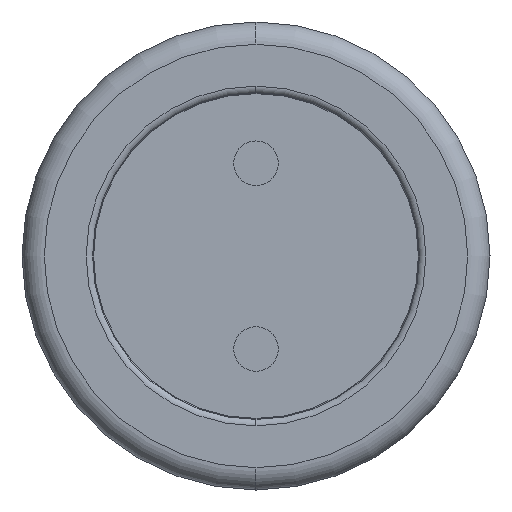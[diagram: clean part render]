
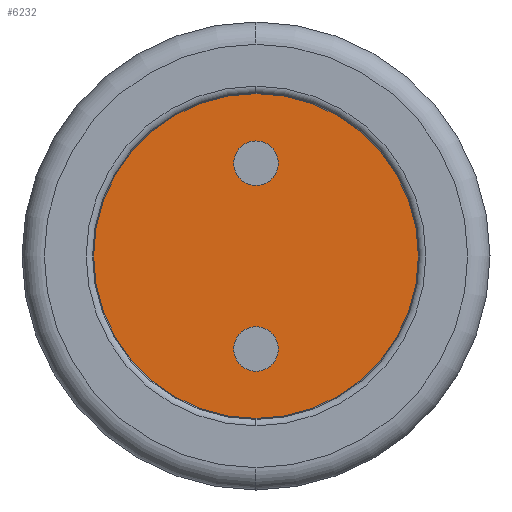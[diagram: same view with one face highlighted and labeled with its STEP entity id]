
A CAD part, left-side view. The second image highlights one B-rep face of the part: STEP entity #6232.
In plain terms, the highlighted planar face has unit normal (-1, 0, 0).
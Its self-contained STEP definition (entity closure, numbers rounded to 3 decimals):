
#40=CARTESIAN_POINT('',(-9.8,0.,0.002));
#41=DIRECTION('',(-1.,0.,0.));
#42=DIRECTION('',(0.,0.,-1.));
#43=AXIS2_PLACEMENT_3D('',#40,#41,#42);
#45=CARTESIAN_POINT('',(-9.8,0.,0.002));
#46=DIRECTION('',(1.,0.,0.));
#47=DIRECTION('',(0.,0.,-1.));
#48=AXIS2_PLACEMENT_3D('',#45,#46,#47);
#50=CARTESIAN_POINT('',(-9.8,0.,-1.25));
#51=DIRECTION('',(-1.,0.,0.));
#52=DIRECTION('',(0.,0.,-1.));
#53=AXIS2_PLACEMENT_3D('',#50,#51,#52);
#55=CARTESIAN_POINT('',(-9.8,0.,-1.25));
#56=DIRECTION('',(-1.,0.,0.));
#57=DIRECTION('',(0.,0.,1.));
#58=AXIS2_PLACEMENT_3D('',#55,#56,#57);
#60=CARTESIAN_POINT('',(-9.8,0.,1.25));
#61=DIRECTION('',(-1.,0.,0.));
#62=DIRECTION('',(0.,0.,-1.));
#63=AXIS2_PLACEMENT_3D('',#60,#61,#62);
#65=CARTESIAN_POINT('',(-9.8,0.,1.25));
#66=DIRECTION('',(-1.,0.,0.));
#67=DIRECTION('',(0.,0.,1.));
#68=AXIS2_PLACEMENT_3D('',#65,#66,#67);
#4685=CARTESIAN_POINT('',(-9.8,0.,-2.198));
#4686=VERTEX_POINT('',#4685);
#4687=CARTESIAN_POINT('',(-9.8,0.,2.202));
#4688=VERTEX_POINT('',#4687);
#4693=CARTESIAN_POINT('',(-9.8,0.,-1.55));
#4694=CARTESIAN_POINT('',(-9.8,0.,-0.95));
#4695=VERTEX_POINT('',#4693);
#4696=VERTEX_POINT('',#4694);
#4697=CARTESIAN_POINT('',(-9.8,0.,0.95));
#4698=CARTESIAN_POINT('',(-9.8,0.,1.55));
#4699=VERTEX_POINT('',#4697);
#4700=VERTEX_POINT('',#4698);
#6211=CARTESIAN_POINT('',(-9.8,0.,0.002));
#6212=DIRECTION('',(1.,0.,0.));
#6213=DIRECTION('',(0.,0.,1.));
#6214=AXIS2_PLACEMENT_3D('',#6211,#6212,#6213);
#6215=PLANE('',#6214);
#6216=ORIENTED_EDGE('',*,*,#6190,.F.);
#6217=ORIENTED_EDGE('',*,*,#6206,.T.);
#6218=EDGE_LOOP('',(#6216,#6217));
#6219=FACE_OUTER_BOUND('',#6218,.F.);
#6221=ORIENTED_EDGE('',*,*,#6220,.T.);
#6223=ORIENTED_EDGE('',*,*,#6222,.T.);
#6224=EDGE_LOOP('',(#6221,#6223));
#6225=FACE_BOUND('',#6224,.F.);
#6227=ORIENTED_EDGE('',*,*,#6226,.T.);
#6229=ORIENTED_EDGE('',*,*,#6228,.T.);
#6230=EDGE_LOOP('',(#6227,#6229));
#6231=FACE_BOUND('',#6230,.F.);
#6232=ADVANCED_FACE('',(#6219,#6225,#6231),#6215,.F.);
#44=CIRCLE('',#43,2.2);
#49=CIRCLE('',#48,2.2);
#54=CIRCLE('',#53,0.3);
#59=CIRCLE('',#58,0.3);
#64=CIRCLE('',#63,0.3);
#69=CIRCLE('',#68,0.3);
#6190=EDGE_CURVE('',#4686,#4688,#44,.T.);
#6206=EDGE_CURVE('',#4686,#4688,#49,.T.);
#6220=EDGE_CURVE('',#4695,#4696,#54,.T.);
#6222=EDGE_CURVE('',#4696,#4695,#59,.T.);
#6226=EDGE_CURVE('',#4699,#4700,#64,.T.);
#6228=EDGE_CURVE('',#4700,#4699,#69,.T.);
